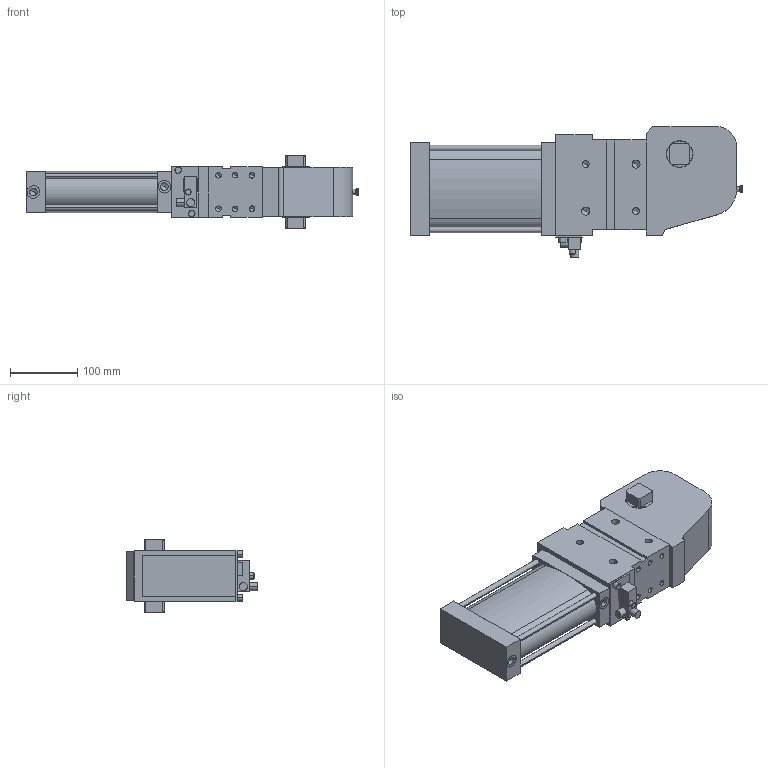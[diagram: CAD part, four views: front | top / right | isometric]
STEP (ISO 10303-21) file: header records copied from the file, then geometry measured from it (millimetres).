
FILE_DESCRIPTION (( 'STEP AP214' ), '1' );
FILE_NAME ('AKUHV80-Z00W12.STEP', '2026-07-07T17:53:46', ( '' ), ( '' ), 'SwSTEP 2.0', 'SolidWorks 2019', '' );
FILE_SCHEMA (( 'AUTOMOTIVE_DESIGN' ));
Length unit declared in the file: millimetre
Products named in the file (1): AKUHV80-Z00W12
Bounding box: 495 x 195 x 108 mm (x, y, z)
Volume: 3605642.7 mm3; surface area: 312574.7 mm2
Topology: 1 solids, 2 shells, 253 faces, 629 edges, 368 vertices
Faces by surface type: cylinder 93, plane 92, cone 56, torus 12
Entity records: 10007 total; most frequent: CARTESIAN_POINT 1368, DIRECTION 1303, ORIENTED_EDGE 1170, EDGE_CURVE 585, AXIS2_PLACEMENT_3D 484, VERTEX_POINT 368, LINE 335, VECTOR 335
